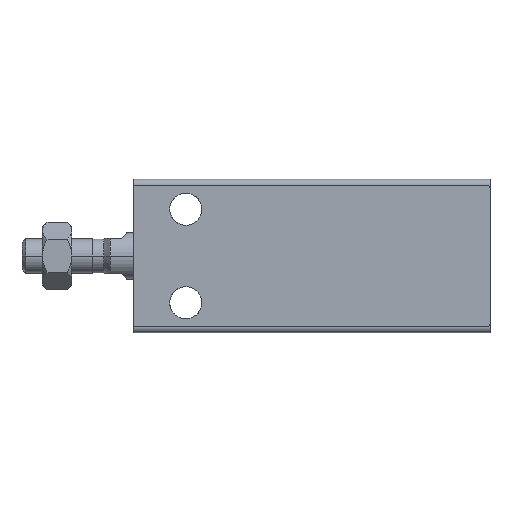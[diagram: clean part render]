
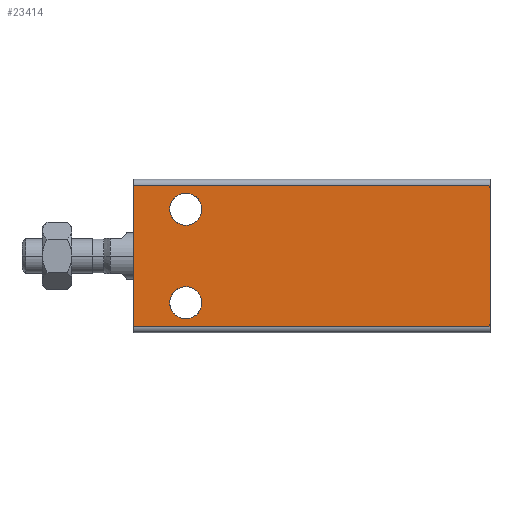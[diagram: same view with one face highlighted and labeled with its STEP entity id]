
A CAD part, front view. The second image highlights one B-rep face of the part: STEP entity #23414.
In plain terms, the highlighted planar face has unit normal (0, -1, 0).
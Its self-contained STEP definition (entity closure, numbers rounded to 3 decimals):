
#886 = CARTESIAN_POINT ( 'NONE',  ( 0., -20.1, 12.9 ) ) ;
#1006 = ORIENTED_EDGE ( 'NONE', *, *, #18288, .F. ) ;
#1031 = VECTOR ( 'NONE', #17046, 1000. ) ;
#1065 = CARTESIAN_POINT ( 'NONE',  ( 9., -20.1, -10.75 ) ) ;
#1251 = PLANE ( 'NONE',  #9228 ) ;
#1613 = LINE ( 'NONE', #886, #1031 ) ;
#2503 = DIRECTION ( 'NONE',  ( 0., 0., 1. ) ) ;
#2900 = EDGE_CURVE ( 'NONE', #14435, #14481, #1613, .T. ) ;
#2958 = VERTEX_POINT ( 'NONE', #22411 ) ;
#3205 = VECTOR ( 'NONE', #22092, 1000. ) ;
#3674 = DIRECTION ( 'NONE',  ( 0., 0., 1. ) ) ;
#4021 = CIRCLE ( 'NONE', #12364, 2.75 ) ;
#4358 = CARTESIAN_POINT ( 'NONE',  ( 9., -20.1, 8. ) ) ;
#4420 = CIRCLE ( 'NONE', #23490, 2.75 ) ;
#4815 = ORIENTED_EDGE ( 'NONE', *, *, #11833, .F. ) ;
#4874 = CARTESIAN_POINT ( 'NONE',  ( 9., -20.1, -8. ) ) ;
#4953 = EDGE_CURVE ( 'NONE', #14435, #2958, #15555, .T. ) ;
#5619 = CARTESIAN_POINT ( 'NONE',  ( 0., -20.1, 12.1 ) ) ;
#5746 = DIRECTION ( 'NONE',  ( 0., -1., 0. ) ) ;
#5812 = CARTESIAN_POINT ( 'NONE',  ( 9., -20.1, -5.25 ) ) ;
#6425 = ORIENTED_EDGE ( 'NONE', *, *, #8488, .F. ) ;
#6705 = FACE_BOUND ( 'NONE', #10159, .T. ) ;
#6788 = AXIS2_PLACEMENT_3D ( 'NONE', #4358, #17293, #2503 ) ;
#7304 = VECTOR ( 'NONE', #19028, 1000. ) ;
#7392 = ORIENTED_EDGE ( 'NONE', *, *, #23491, .F. ) ;
#8156 = ORIENTED_EDGE ( 'NONE', *, *, #2900, .T. ) ;
#8459 = CARTESIAN_POINT ( 'NONE',  ( 61., -20.1, -12.1 ) ) ;
#8488 = EDGE_CURVE ( 'NONE', #14135, #22609, #4021, .T. ) ;
#8596 = DIRECTION ( 'NONE',  ( 0., 1., 0. ) ) ;
#8619 = DIRECTION ( 'NONE',  ( 0., 0., 1. ) ) ;
#8692 = FACE_OUTER_BOUND ( 'NONE', #17482, .T. ) ;
#9228 = AXIS2_PLACEMENT_3D ( 'NONE', #14408, #8596, #18040 ) ;
#10159 = EDGE_LOOP ( 'NONE', ( #16654, #1006 ) ) ;
#10283 = EDGE_CURVE ( 'NONE', #11498, #14481, #11618, .T. ) ;
#10361 = CARTESIAN_POINT ( 'NONE',  ( 9., -20.1, 5.25 ) ) ;
#10450 = AXIS2_PLACEMENT_3D ( 'NONE', #11099, #16667, #10776 ) ;
#10606 = VERTEX_POINT ( 'NONE', #10361 ) ;
#10776 = DIRECTION ( 'NONE',  ( 0., 0., 1. ) ) ;
#11099 = CARTESIAN_POINT ( 'NONE',  ( 9., -20.1, -8. ) ) ;
#11280 = LINE ( 'NONE', #13537, #15892 ) ;
#11498 = VERTEX_POINT ( 'NONE', #8459 ) ;
#11618 = LINE ( 'NONE', #15009, #7304 ) ;
#11680 = EDGE_CURVE ( 'NONE', #13738, #10606, #4420, .T. ) ;
#11833 = EDGE_CURVE ( 'NONE', #2958, #11498, #11280, .T. ) ;
#12364 = AXIS2_PLACEMENT_3D ( 'NONE', #4874, #21382, #8619 ) ;
#13238 = CARTESIAN_POINT ( 'NONE',  ( 0., -20.1, -12.1 ) ) ;
#13537 = CARTESIAN_POINT ( 'NONE',  ( 61., -20.1, 12.1 ) ) ;
#13630 = ORIENTED_EDGE ( 'NONE', *, *, #10283, .F. ) ;
#13738 = VERTEX_POINT ( 'NONE', #22618 ) ;
#14135 = VERTEX_POINT ( 'NONE', #5812 ) ;
#14408 = CARTESIAN_POINT ( 'NONE',  ( 61., -20.1, 12.1 ) ) ;
#14435 = VERTEX_POINT ( 'NONE', #5619 ) ;
#14481 = VERTEX_POINT ( 'NONE', #13238 ) ;
#14592 = CARTESIAN_POINT ( 'NONE',  ( 9., -20.1, 8. ) ) ;
#15009 = CARTESIAN_POINT ( 'NONE',  ( 61., -20.1, -12.1 ) ) ;
#15555 = LINE ( 'NONE', #23795, #3205 ) ;
#15892 = VECTOR ( 'NONE', #23139, 1000. ) ;
#16654 = ORIENTED_EDGE ( 'NONE', *, *, #11680, .F. ) ;
#16667 = DIRECTION ( 'NONE',  ( 0., -1., 0. ) ) ;
#17046 = DIRECTION ( 'NONE',  ( 0., 0., -1. ) ) ;
#17293 = DIRECTION ( 'NONE',  ( 0., -1., 0. ) ) ;
#17482 = EDGE_LOOP ( 'NONE', ( #13630, #4815, #19397, #8156 ) ) ;
#18040 = DIRECTION ( 'NONE',  ( 0., 0., 1. ) ) ;
#18288 = EDGE_CURVE ( 'NONE', #10606, #13738, #23376, .T. ) ;
#19028 = DIRECTION ( 'NONE',  ( -1., 0., 0. ) ) ;
#19397 = ORIENTED_EDGE ( 'NONE', *, *, #4953, .F. ) ;
#19668 = FACE_BOUND ( 'NONE', #23688, .T. ) ;
#21382 = DIRECTION ( 'NONE',  ( 0., -1., 0. ) ) ;
#22092 = DIRECTION ( 'NONE',  ( 1., 0., 0. ) ) ;
#22411 = CARTESIAN_POINT ( 'NONE',  ( 61., -20.1, 12.1 ) ) ;
#22609 = VERTEX_POINT ( 'NONE', #1065 ) ;
#22618 = CARTESIAN_POINT ( 'NONE',  ( 9., -20.1, 10.75 ) ) ;
#23139 = DIRECTION ( 'NONE',  ( 0., 0., -1. ) ) ;
#23141 = CIRCLE ( 'NONE', #10450, 2.75 ) ;
#23376 = CIRCLE ( 'NONE', #6788, 2.75 ) ;
#23414 = ADVANCED_FACE ( 'NONE', ( #8692, #19668, #6705 ), #1251, .F. ) ;
#23490 = AXIS2_PLACEMENT_3D ( 'NONE', #14592, #5746, #3674 ) ;
#23491 = EDGE_CURVE ( 'NONE', #22609, #14135, #23141, .T. ) ;
#23688 = EDGE_LOOP ( 'NONE', ( #6425, #7392 ) ) ;
#23795 = CARTESIAN_POINT ( 'NONE',  ( 61., -20.1, 12.1 ) ) ;
